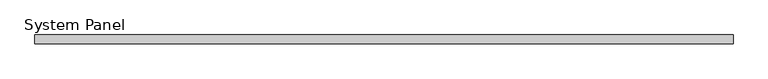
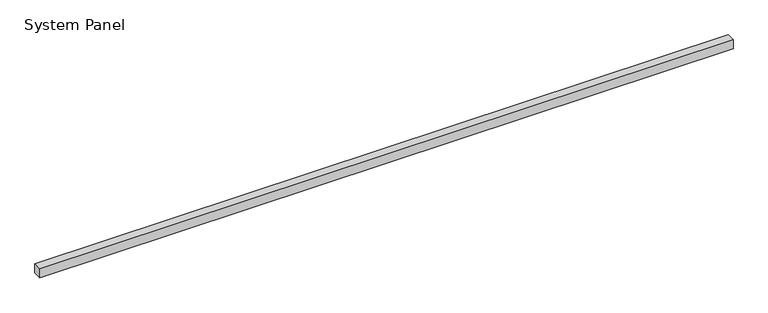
"""IFC4 building model written with IfcOpenShell, lengths in millimetres: plate geometry, System Panel : Equitilt 75mm Horizontal - Plain RHEA - EPS-FR."""

from ifc_helpers import new_model, si_unit, origin, origin_with_axes, place, context, project, spatial, polyline, outline, extrude, source, transform, mapped, element, save


def system_panel_e92a4fb4(model_context):
    return source(origin(), model_context, "Body", "SweptSolid", [
        extrude(outline(polyline([(2990.0, -75.0), (-2990.0, -75.0), (-2990.0, 0.0), (2990.0, 0.0), (2990.0, -75.0)])), origin_with_axes(), (0.0, 0.0, 1.0), 79.9704237),
    ])


if __name__ == "__main__":
    model = new_model("IFC4")
    model_context = context("Model", 3, world=origin())
    ifc_project = project(units=[si_unit("LENGTHUNIT", "METRE", prefix="MILLI")], contexts=[model_context])
    site = spatial("IfcSite", under=ifc_project)
    building = spatial("IfcBuilding", under=site)
    placement = place(None, origin())
    system_panel_shape = system_panel_e92a4fb4(model_context)
    element("IfcPlate", 1, ObjectType="System Panel : Equitilt 75mm Horizontal - Plain RHEA - EPS-FR", at=placement, inside=building, context=model_context, shape_type="MappedRepresentation", body=[
        mapped(system_panel_shape, transform((0.0, 0.0, 0.0), x_axis=(1.0, 0.0, 0.0), y_axis=(0.0, 1.0, 0.0), z_axis=(0.0, 0.0, 1.0))),
    ])
    save(model, "model.ifc")
